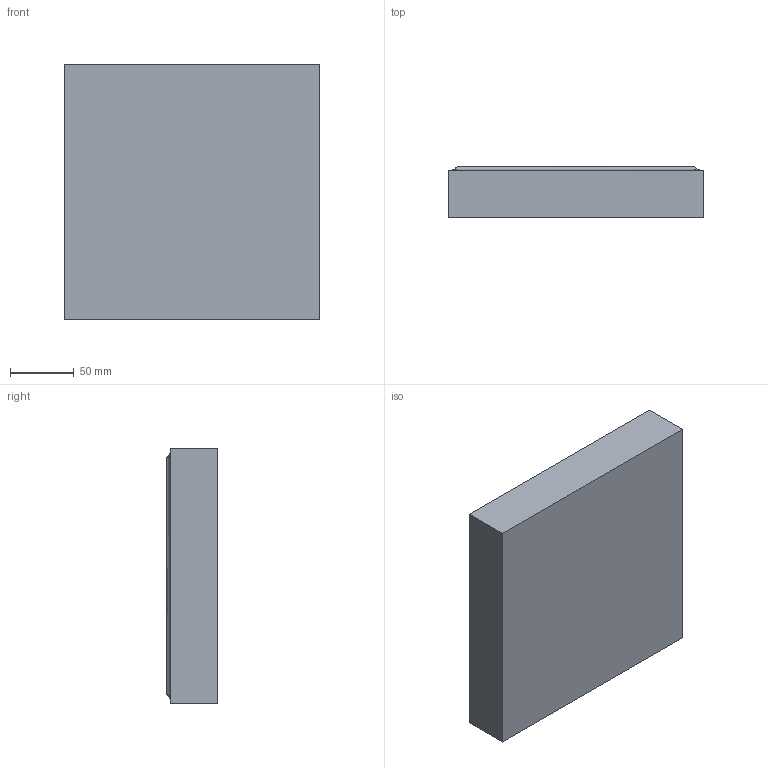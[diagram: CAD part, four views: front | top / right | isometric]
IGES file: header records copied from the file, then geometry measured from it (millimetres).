
Start section: SolidWorks IGES file using analytic representation for surfaces
Global section: file name: C:\SANTACOLE_PDM\I2\Productos de catálogo\outdoor\Mobiliario\Kandinski\6_TECNICO COMERCIAL\3D WEB\Pavimento Vassily Kandinsky.IGS; native system: SolidWorks 2013; preprocessor: SolidWorks 2013; author: jordi.munoz; date: 150611.103700; units: millimetre
Bounding box: 200 x 40 x 200 mm (x, y, z)
Surface area: 111408.5 mm2 (no closed solid volume)
Topology: 0 solids, 0 shells, 39 faces, 372 edges, 372 vertices
Faces by surface type: revolution 29, bspline 10
